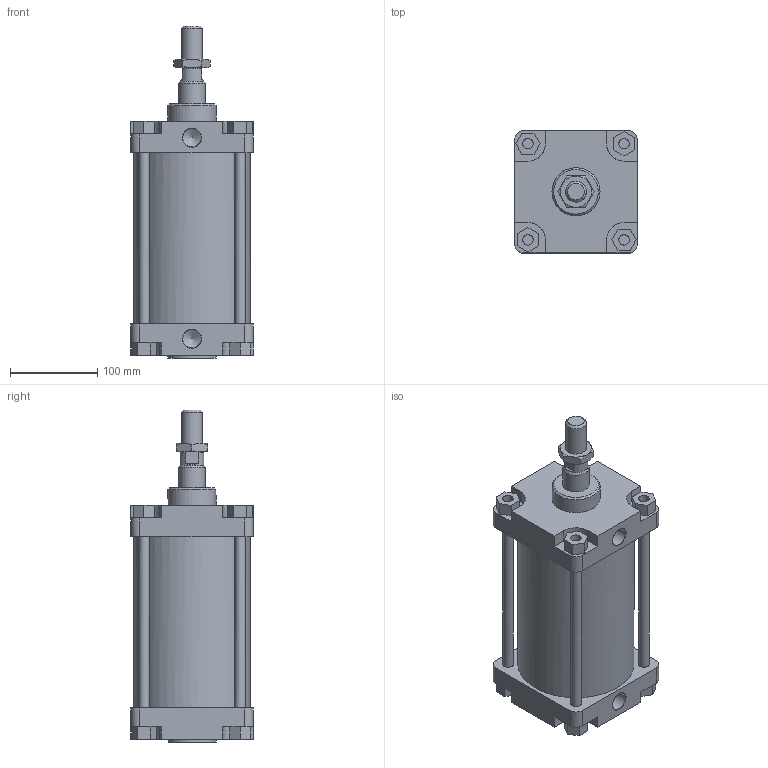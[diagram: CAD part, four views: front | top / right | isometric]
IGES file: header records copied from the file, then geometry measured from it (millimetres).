
Global section: file name: 1304_125_0100_01A; native system: Autodesk Inventor 2014; preprocessor: unknown; author: A. Manieri; date: 20161124.142348; units: millimetre
Bounding box: 140 x 140 x 380 mm (x, y, z)
Volume: 3053699.2 mm3; surface area: 425284.5 mm2
Topology: 9 solids, 9 shells, 175 faces, 440 edges, 295 vertices
Faces by surface type: bspline 175
